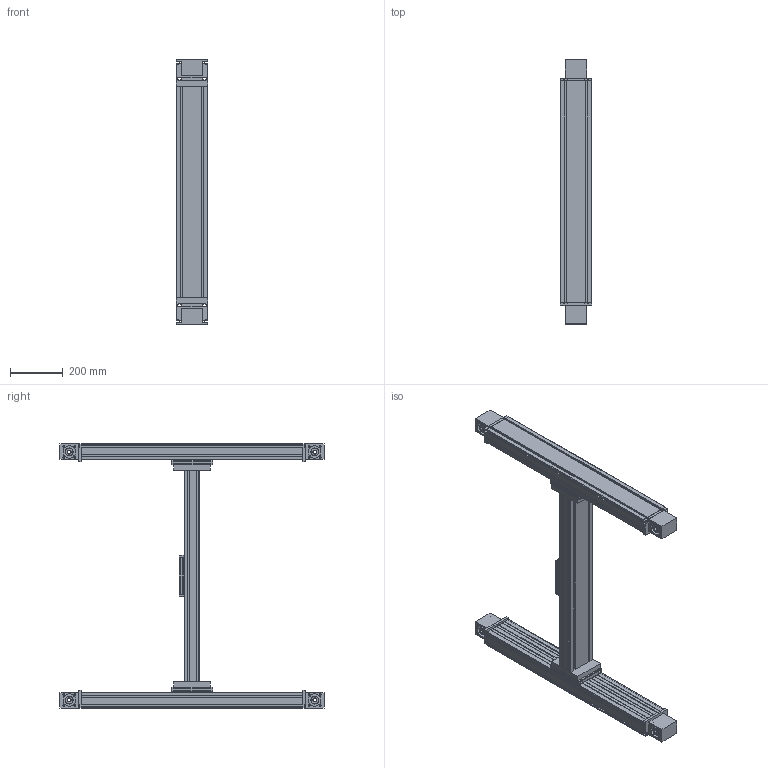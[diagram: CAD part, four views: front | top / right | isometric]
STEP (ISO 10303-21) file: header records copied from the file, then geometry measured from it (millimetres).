
FILE_DESCRIPTION (( 'STEP AP214' ), '1' );
FILE_NAME ('DLZU 120 - Konfig - ED.STEP', '2023-07-04T09:31:53', ( '' ), ( '' ), 'SwSTEP 2.0', 'SolidWorks 2020', '' );
FILE_SCHEMA (( 'AUTOMOTIVE_DESIGN' ));
Length unit declared in the file: millimetre
Products named in the file (8): carriage x^DLZU 120 - Konfig - ED_carriage version 0; profile y^DLZU 120 - Konfig - ED_standard; carriage y^DLZU 120 - Konfig - ED_carriage version 0; timing belt reverse unit^DLZU 120 - Konfig - ED_coupling claw pos.2; timing belt reverse unit^DLZU 120 - Konfig - ED_coupling claw pos.1; end plate^DLZU 120 - Konfig - ED_0; DLZU 120 - Konfig - ED; profile x^DLZU 120 - Konfig - ED_standard
Assembly tree (14 placements, depth 2):
  DLZU 120 - Konfig - ED
    profile x^DLZU 120 - Konfig - ED_standard
    profile y^DLZU 120 - Konfig - ED_standard  x2
    carriage x^DLZU 120 - Konfig - ED_carriage version 0
    carriage y^DLZU 120 - Konfig - ED_carriage version 0  x2
    timing belt reverse unit^DLZU 120 - Konfig - ED_coupling claw pos.2  x2
    timing belt reverse unit^DLZU 120 - Konfig - ED_coupling claw pos.1  x2
    end plate^DLZU 120 - Konfig - ED_0  x4
Bounding box: 120 x 1000 x 1000 mm (x, y, z)
Volume: 11332847.9 mm3; surface area: 3362537.6 mm2
Topology: 34 solids, 34 shells, 1170 faces, 3118 edges, 2036 vertices
Faces by surface type: plane 851, cylinder 287, bspline 24, cone 8
Entity records: 21599 total; most frequent: CARTESIAN_POINT 4375, ORIENTED_EDGE 3544, DIRECTION 3358, EDGE_CURVE 1772, LINE 1464, VECTOR 1464, VERTEX_POINT 1164, AXIS2_PLACEMENT_3D 947
